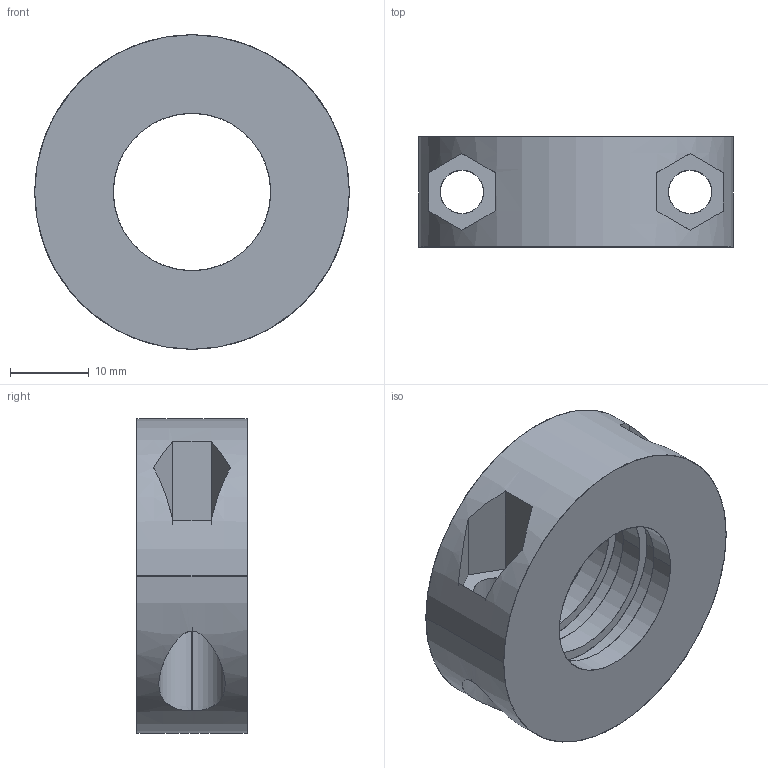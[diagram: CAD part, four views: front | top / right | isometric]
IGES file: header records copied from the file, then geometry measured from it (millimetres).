
Start section: SolidWorks IGES file using analytic representation for surfaces
Global section: file name: C:\Documents and Settings\ARGE\Desktop\yeni katalog tolgay düzenli\B kataloðu\AYRIK TASMALAR YUVARLAK TÝPÝ\export\800 235 350.IGS; native system: SolidWorks 2006 by SolidWorks Corporation; preprocessor: SolidWorks 2006 by SolidWorks Corporation; author: ARGE2; date: 060911.143512; units: millimetre
Bounding box: 40 x 14 x 40 mm (x, y, z)
Surface area: 5900.8 mm2 (no closed solid volume)
Topology: 0 solids, 0 shells, 42 faces, 952 edges, 952 vertices
Faces by surface type: bspline 22, revolution 20
